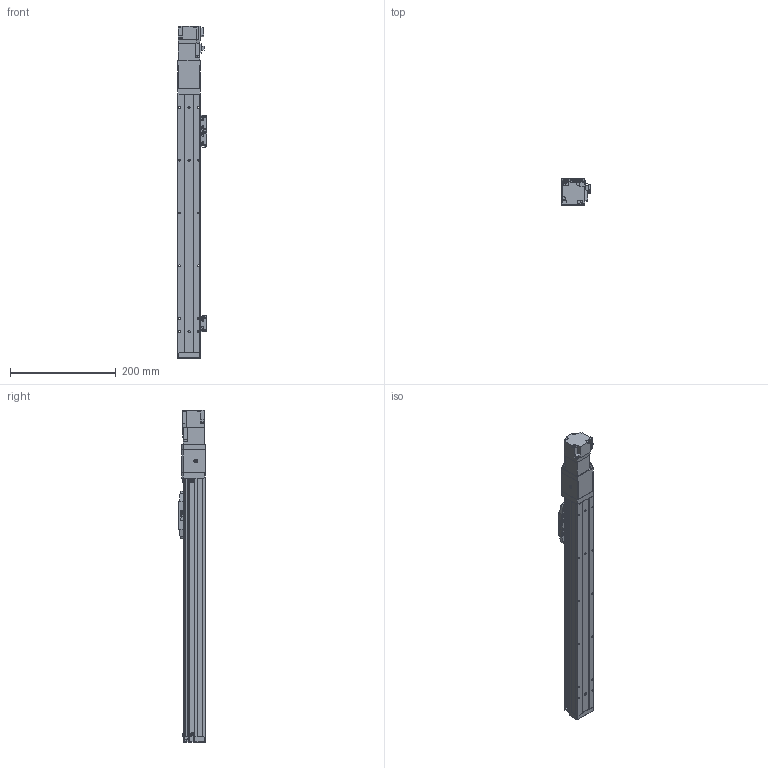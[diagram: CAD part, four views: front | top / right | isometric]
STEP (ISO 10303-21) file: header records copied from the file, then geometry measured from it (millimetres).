
FILE_DESCRIPTION (( 'STEP AP214' ), '1' );
FILE_NAME ('RGH4-XX-350-E-M05-C4.step', '2025-10-28T06:16:17', ( 'Microsoft' ), ( 'Microsoft' ), 'SwSTEP 2.0', 'SolidWorks 2018', '' );
FILE_SCHEMA (( 'AUTOMOTIVE_DESIGN' ));
Length unit declared in the file: millimetre
Products named in the file (1): RGH4-XX-350-E-M05-C4
Bounding box: 55.2 x 52 x 629.4 mm (x, y, z)
Volume: 991852.7 mm3; surface area: 196417.9 mm2
Topology: 51 solids, 51 shells, 1884 faces, 4412 edges, 2716 vertices
Faces by surface type: plane 1026, cylinder 461, cone 257, torus 132, sphere 8
Entity records: 75302 total; most frequent: CARTESIAN_POINT 9965, DIRECTION 9492, ORIENTED_EDGE 8752, EDGE_CURVE 4376, AXIS2_PLACEMENT_3D 3313, VECTOR 2866, LINE 2866, VERTEX_POINT 2712
